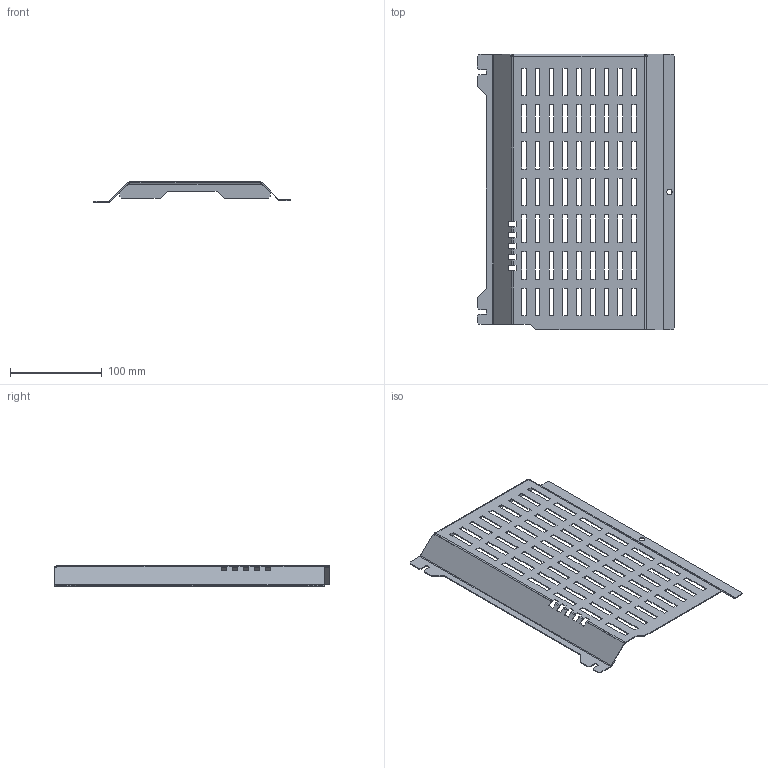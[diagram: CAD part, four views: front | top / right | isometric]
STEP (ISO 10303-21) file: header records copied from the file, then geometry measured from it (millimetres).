
FILE_DESCRIPTION (( 'STEP AP203' ), '1' );
FILE_NAME ('庋.803-5-25.0.0.1.STEP', '2021-03-06T18:31:10', ( '' ), ( '' ), 'SwSTEP 2.0', 'SolidWorks 2016', '' );
FILE_SCHEMA (( 'CONFIG_CONTROL_DESIGN' ));
Length unit declared in the file: millimetre
Products named in the file (1): 庋.803-5-25.0.0.1
Bounding box: 215.5 x 300 x 22 mm (x, y, z)
Volume: 59128.8 mm3; surface area: 124024.5 mm2
Topology: 1 solids, 1 shells, 394 faces, 1126 edges, 724 vertices
Faces by surface type: plane 372, cylinder 22
Entity records: 12867 total; most frequent: ORIENTED_EDGE 2252, CARTESIAN_POINT 2245, DIRECTION 1960, EDGE_CURVE 1126, LINE 1082, VECTOR 1082, VERTEX_POINT 724, EDGE_LOOP 522
